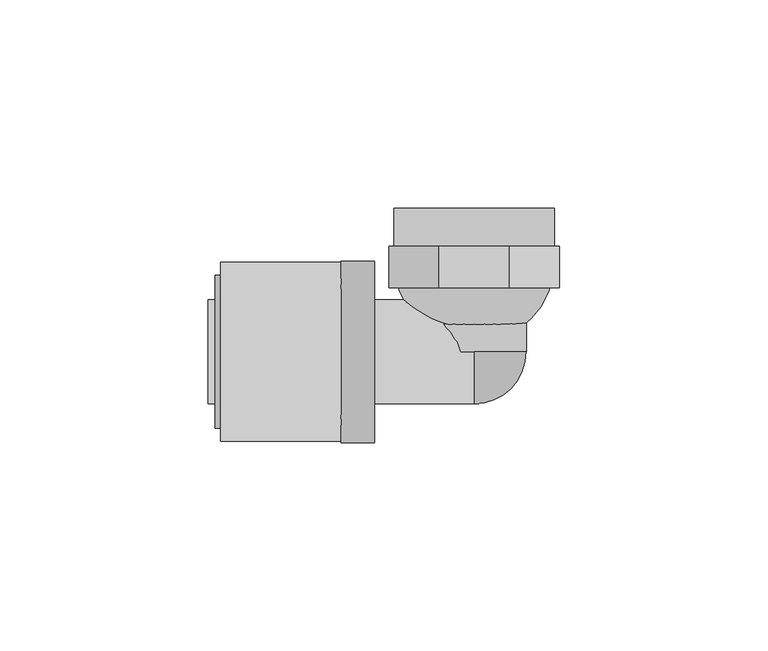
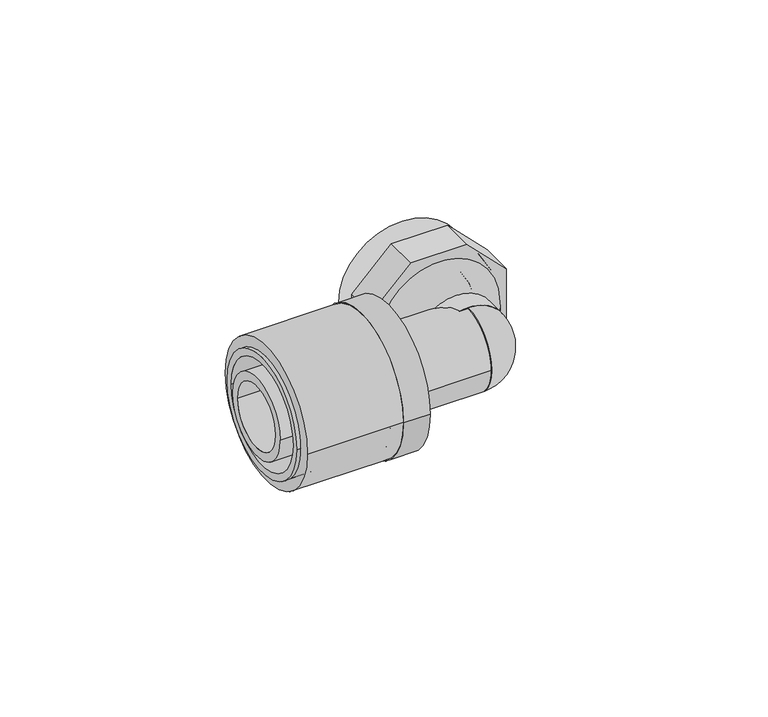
"""IFC4 building model written with IfcOpenShell, lengths in millimetres: pipe fitting geometry, FASTLOC_Elbow with female thread EX+ : FSL A internal AT."""

from ifc_helpers import new_model, si_unit, point, frame, origin, origin_2d, place, context, project, spatial, polyline, circle_curve, ellipse_curve, trimmed, segment, composite_curve, outline, extrude, source, transform, mapped, element, save
from ifc_brep_helpers import plane_surface, cylinder_surface, revolved_surface, advanced_brep


def pipe_fitting_715ab4bf(model_context):
    return source(origin(), model_context, "Body", "SolidModel", [
        extrude(outline(composite_curve([segment(trimmed(circle_curve(origin_2d(), 21.5), [point((21.5, 0.0))], [point((-21.5, 0.0))], False, "CARTESIAN"), True, "CONTINUOUS"), segment(trimmed(circle_curve(origin_2d(), 21.5), [point((-21.5, 0.0))], [point((21.5, 0.0))], False, "CARTESIAN"), True, "CONTINUOUS")], self_intersect=False), holes=[composite_curve([segment(trimmed(circle_curve(origin_2d(), 16.85), [point((16.85, 0.0))], [point((-16.85, 0.0))], True, "CARTESIAN"), True, "CONTINUOUS"), segment(trimmed(circle_curve(origin_2d(), 16.85), [point((-16.85, 0.0))], [point((16.85, 0.0))], True, "CARTESIAN"), True, "CONTINUOUS")], self_intersect=False)]), frame((-61.0, 0.0, 0.0), z_axis=(1.0, 0.0, 0.0), x_axis=(0.0, 1.0, 0.0)), (0.0, 0.0, 1.0), 29.0),
        advanced_brep(
        [(-32.0, -21.8, 0.0), (-32.0, 21.8, 0.0), (-24.0, 21.8, 0.0), (-24.0, -21.8, 0.0), (-62.3, -18.35, 0.0), (-62.3, 18.35, 0.0), (-32.0, 18.35, 0.0), (-32.0, -18.35, 0.0), (-24.0, -16.2, 0.0), (-24.0, 16.2, 0.0), (-62.3, 16.2, 0.0), (-62.3, -16.2, 0.0)],
        [
            (0, 1, circle_curve(frame((-32.0, 0.0, 0.0), z_axis=(1.0, 0.0, 0.0), x_axis=(0.0, 1.0, 0.0)), 21.8)),
            (1, 2),
            (2, 3, circle_curve(frame((-24.0, 0.0, 0.0), z_axis=(-1.0, 0.0, 0.0), x_axis=(0.0, 1.0, 0.0)), 21.8)),
            (3, 0),
            (4, 5, circle_curve(frame((-62.3, 0.0, 0.0), z_axis=(1.0, 0.0, 0.0), x_axis=(0.0, 1.0, 0.0)), 18.35)),
            (5, 6),
            (6, 7, circle_curve(frame((-32.0, 0.0, 0.0), z_axis=(-1.0, 0.0, 0.0), x_axis=(0.0, 1.0, 0.0)), 18.35)),
            (7, 4),
            (8, 9, circle_curve(frame((-24.0, 0.0, 0.0), z_axis=(1.0, 0.0, 0.0), x_axis=(0.0, 1.0, 0.0)), 16.2)),
            (9, 10),
            (10, 11, circle_curve(frame((-62.3, 0.0, 0.0), z_axis=(-1.0, 0.0, 0.0), x_axis=(0.0, 1.0, 0.0)), 16.2)),
            (11, 8),
            (1, 0, circle_curve(frame((-32.0, 0.0, 0.0), z_axis=(1.0, 0.0, 0.0), x_axis=(0.0, -1.0, 0.0)), 21.8)),
            (3, 2, circle_curve(frame((-24.0, 0.0, 0.0), z_axis=(-1.0, 0.0, 0.0), x_axis=(0.0, -1.0, 0.0)), 21.8)),
            (6, 7, circle_curve(frame((-32.0, 0.0, 0.0), z_axis=(1.0, 0.0, 0.0), x_axis=(0.0, -1.0, 0.0)), 18.35)),
            (5, 4, circle_curve(frame((-62.3, 0.0, 0.0), z_axis=(1.0, 0.0, 0.0), x_axis=(0.0, -1.0, 0.0)), 18.35)),
            (10, 11, circle_curve(frame((-62.3, 0.0, 0.0), z_axis=(1.0, 0.0, 0.0), x_axis=(0.0, -1.0, 0.0)), 16.2)),
            (9, 8, circle_curve(frame((-24.0, 0.0, 0.0), z_axis=(1.0, 0.0, 0.0), x_axis=(0.0, -1.0, 0.0)), 16.2)),
        ],
        [
            cylinder_surface(frame((-24.0, 0.0, 0.0), z_axis=(-1.0, 0.0, 0.0), x_axis=(0.0, 1.0, 0.0)), 21.8),
            cylinder_surface(frame((-24.0, 0.0, 0.0), z_axis=(-1.0, 0.0, 0.0), x_axis=(0.0, 1.0, 0.0)), 18.35),
            revolved_surface(polyline([(-62.3, 16.2, 0.0), (-24.0, 16.2, 0.0)]), (-24.0, 0.0, 0.0), (-1.0, 0.0, 0.0)),
            cylinder_surface(frame((-24.0, 0.0, 0.0), z_axis=(-1.0, 0.0, 0.0), x_axis=(0.0, -1.0, 0.0)), 21.8),
            plane_surface(frame((-32.0, 0.0, 0.0), z_axis=(-1.0, 0.0, 0.0), x_axis=(0.0, -1.0, 0.0))),
            cylinder_surface(frame((-24.0, 0.0, 0.0), z_axis=(-1.0, 0.0, 0.0), x_axis=(0.0, -1.0, 0.0)), 18.35),
            plane_surface(frame((-62.3, 0.0, 0.0), z_axis=(-1.0, 0.0, 0.0), x_axis=(0.0, -1.0, 0.0))),
            revolved_surface(polyline([(-62.3, -16.2, 0.0), (-24.0, -16.2, 0.0)]), (-24.0, 0.0, 0.0), (-1.0, 0.0, 0.0)),
            plane_surface(frame((-24.0, 0.0, 0.0), z_axis=(1.0, 0.0, 0.0), x_axis=(0.0, -1.0, 0.0))),
        ],
        [
            (0, [[1, 2, 3, 4]]),
            (1, [[5, 6, 7, 8]]),
            (2, [[9, 10, 11, 12]]),
            (3, [[13, -4, 14, -2]]),
            (4, [[-13, -1], [15, -7]]),
            (5, [[16, -8, -15, -6]]),
            (6, [[-16, -5], [17, -11]]),
            (7, [[18, -12, -17, -10]]),
            (8, [[-14, -3], [-18, -9]]),
        ],
    ),
        advanced_brep(
        [(0.0, 0.0, 12.5), (0.0, 0.0, 6.25), (0.0, -6.25, 0.0), (0.0, -12.5, 0.0), (0.0, 0.0, -12.5), (0.0, 0.0, -6.25)],
        [
            (0, 1),
            (1, 2, circle_curve(frame((0.0, 0.0, 0.0), z_axis=(1.0, 0.0, 0.0), x_axis=(0.0, 0.0, 1.0)), 6.25)),
            (2, 3),
            (3, 0, circle_curve(frame((0.0, 0.0, 0.0), z_axis=(-1.0, 0.0, 0.0), x_axis=(0.0, 0.0, 1.0)), 12.5)),
            (4, 3, circle_curve(frame((0.0, 0.0, 0.0), z_axis=(-1.0, 0.0, 0.0), x_axis=(0.0, 0.0, -1.0)), 12.5)),
            (2, 5, circle_curve(frame((0.0, 0.0, 0.0), z_axis=(1.0, 0.0, 0.0), x_axis=(0.0, 0.0, -1.0)), 6.25)),
            (5, 4),
            (5, 1, circle_curve(frame((0.0, 0.0, 0.0), z_axis=(0.0, -1.0, 0.0), x_axis=(0.0, 0.0, 1.0)), 6.25)),
            (0, 4, circle_curve(frame((0.0, 0.0, 0.0), z_axis=(0.0, 1.0, 0.0), x_axis=(0.0, 0.0, 1.0)), 12.5)),
        ],
        [
            plane_surface(frame((0.0, 0.0, 0.0), z_axis=(-1.0, 0.0, 0.0), x_axis=(0.0, 0.0, 1.0))),
            plane_surface(frame((0.0, 0.0, 0.0), z_axis=(-1.0, 0.0, 0.0), x_axis=(0.0, 0.0, -1.0))),
            plane_surface(frame((0.0, 0.0, 0.0), z_axis=(0.0, 1.0, 0.0), x_axis=(0.0, 0.0, 1.0))),
            revolved_surface(trimmed(ellipse_curve(frame((0.0, 0.0, 0.0), z_axis=(1.0, 0.0, 0.0), x_axis=(0.0, 0.0, 1.0)), 6.25, 6.25), [point((0.0, 0.0, 6.25))], [point((0.0, -6.25, 0.0))], True, "CARTESIAN"), (0.0, 0.0, 0.0), (0.0, 1.0, 0.0)),
            revolved_surface(trimmed(ellipse_curve(frame((0.0, 0.0, 0.0), z_axis=(-1.0, 0.0, 0.0), x_axis=(0.0, 0.0, 1.0)), 12.5, 12.5), [point((0.0, -12.5, 0.0))], [point((0.0, 0.0, 12.5))], True, "CARTESIAN"), (0.0, 0.0, 0.0), (0.0, 1.0, 0.0)),
        ],
        [
            (0, [[1, 2, 3, 4]]),
            (1, [[5, -3, 6, 7]]),
            (2, [[8, -1, 9, -7]]),
            (3, [[-2, -8, -6]]),
            (4, [[-9, -4, -5]]),
        ],
    ),
        extrude(outline(polyline([(-20.5, 8.491378), (-8.491378, 20.5), (8.491378, 20.5), (20.5, 8.491378), (20.5, -8.491378), (8.491378, -20.5), (-8.491378, -20.5), (-20.5, -8.491378), (-20.5, 8.491378)])), frame((0.0, 15.4, 0.0), z_axis=(0.0, 1.0, 0.0), x_axis=(0.0, 0.0, 1.0)), (0.0, 0.0, 1.0), 10.0),
        advanced_brep(
        [(0.5, 2.2564946, 0.0), (-0.5, 2.2564946, 0.0), (-19.25, 21.5, 0.0), (19.25, 21.5, 0.0), (0.5, 9.010004, 0.0), (-0.5, 9.010004, 0.0), (12.5, 21.5, 0.0), (-12.5, 21.5, 0.0), (12.5, 34.5, 0.0), (-12.5, 34.5, 0.0), (-19.25, 34.5, 0.0), (19.25, 34.5, 0.0)],
        [
            (0, 1, circle_curve(frame((0.0, 2.2564946, 0.0), z_axis=(0.0, 1.0, 0.0), x_axis=(-1.0, 0.0, 0.0)), 0.5)),
            (1, 2, circle_curve(frame((0.0, 21.5, 0.0), z_axis=(0.0, 0.0, -1.0), x_axis=(0.0, 1.0, 0.0)), 19.25)),
            (2, 3, circle_curve(frame((0.0, 21.5, 0.0), z_axis=(0.0, -1.0, 0.0), x_axis=(-1.0, 0.0, 0.0)), 19.25)),
            (3, 0, circle_curve(frame((0.0, 21.5, 0.0), z_axis=(0.0, 0.0, -1.0), x_axis=(0.0, 1.0, 0.0)), 19.25)),
            (4, 5, circle_curve(frame((0.0, 9.010004, 0.0), z_axis=(0.0, 1.0, 0.0), x_axis=(-1.0, 0.0, 0.0)), 0.5)),
            (5, 1),
            (0, 4),
            (6, 7, circle_curve(frame((0.0, 21.5, 0.0), z_axis=(0.0, 1.0, 0.0), x_axis=(-1.0, 0.0, 0.0)), 12.5)),
            (7, 5, circle_curve(frame((0.0, 21.5, 0.0), z_axis=(0.0, 0.0, 1.0), x_axis=(0.0, 1.0, 0.0)), 12.5)),
            (4, 6, circle_curve(frame((0.0, 21.5, 0.0), z_axis=(0.0, 0.0, 1.0), x_axis=(0.0, 1.0, 0.0)), 12.5)),
            (8, 9, circle_curve(frame((0.0, 34.5, 0.0), z_axis=(0.0, 1.0, 0.0), x_axis=(-1.0, 0.0, 0.0)), 12.5)),
            (9, 7),
            (6, 8),
            (2, 10),
            (10, 11, circle_curve(frame((0.0, 34.5, 0.0), z_axis=(0.0, -1.0, 0.0), x_axis=(-1.0, 0.0, 0.0)), 19.25)),
            (11, 3),
            (1, 0, circle_curve(frame((0.0, 2.2564946, 0.0), z_axis=(0.0, 1.0, 0.0), x_axis=(1.0, 0.0, 0.0)), 0.5)),
            (3, 2, circle_curve(frame((0.0, 21.5, 0.0), z_axis=(0.0, -1.0, 0.0), x_axis=(1.0, 0.0, 0.0)), 19.25)),
            (5, 4, circle_curve(frame((0.0, 9.010004, 0.0), z_axis=(0.0, 1.0, 0.0), x_axis=(1.0, 0.0, 0.0)), 0.5)),
            (7, 6, circle_curve(frame((0.0, 21.5, 0.0), z_axis=(0.0, 1.0, 0.0), x_axis=(1.0, 0.0, 0.0)), 12.5)),
            (9, 8, circle_curve(frame((0.0, 34.5, 0.0), z_axis=(0.0, 1.0, 0.0), x_axis=(1.0, 0.0, 0.0)), 12.5)),
            (10, 11, circle_curve(frame((0.0, 34.5, 0.0), z_axis=(0.0, 1.0, 0.0), x_axis=(1.0, 0.0, 0.0)), 19.25)),
        ],
        [
            revolved_surface(trimmed(ellipse_curve(frame((0.0, 21.5, 0.0), z_axis=(0.0, 0.0, 1.0), x_axis=(0.0, 1.0, 0.0)), 19.25, 19.25), [point((-19.25, 21.5, 0.0))], [point((-0.5, 2.2564946, 0.0))], True, "CARTESIAN"), (0.0, 15.4, 0.0), (0.0, -1.0, 0.0)),
            revolved_surface(polyline([(-0.5, 2.2564946, 0.0), (-0.5, 9.010004, 0.0)]), (0.0, 15.4, 0.0), (0.0, -1.0, 0.0)),
            revolved_surface(trimmed(ellipse_curve(frame((0.0, 21.5, 0.0), z_axis=(0.0, 0.0, -1.0), x_axis=(0.0, 1.0, 0.0)), 12.5, 12.5), [point((-0.5, 9.010004, 0.0))], [point((-12.5, 21.5, 0.0))], True, "CARTESIAN"), (0.0, 15.4, 0.0), (0.0, -1.0, 0.0)),
            revolved_surface(polyline([(-12.5, 21.5, 0.0), (-12.5, 34.5, 0.0)]), (0.0, 15.4, 0.0), (0.0, -1.0, 0.0)),
            cylinder_surface(frame((0.0, 15.4, 0.0), z_axis=(0.0, -1.0, 0.0), x_axis=(-1.0, 0.0, 0.0)), 19.25),
            revolved_surface(trimmed(ellipse_curve(frame((0.0, 21.5, 0.0), z_axis=(0.0, 0.0, -1.0), x_axis=(0.0, 1.0, 0.0)), 19.25, 19.25), [point((19.25, 21.5, 0.0))], [point((0.5, 2.2564946, 0.0))], True, "CARTESIAN"), (0.0, 15.4, 0.0), (0.0, -1.0, 0.0)),
            revolved_surface(polyline([(0.5, 2.2564946, 0.0), (0.5, 9.010004, 0.0)]), (0.0, 15.4, 0.0), (0.0, -1.0, 0.0)),
            revolved_surface(trimmed(ellipse_curve(frame((0.0, 21.5, 0.0), z_axis=(0.0, 0.0, 1.0), x_axis=(0.0, 1.0, 0.0)), 12.5, 12.5), [point((0.5, 9.010004, 0.0))], [point((12.5, 21.5, 0.0))], True, "CARTESIAN"), (0.0, 15.4, 0.0), (0.0, -1.0, 0.0)),
            revolved_surface(polyline([(12.5, 21.5, 0.0), (12.5, 34.5, 0.0)]), (0.0, 15.4, 0.0), (0.0, -1.0, 0.0)),
            plane_surface(frame((0.0, 34.5, 0.0), z_axis=(0.0, 1.0, 0.0), x_axis=(1.0, 0.0, 0.0))),
            cylinder_surface(frame((0.0, 15.4, 0.0), z_axis=(0.0, -1.0, 0.0), x_axis=(1.0, 0.0, 0.0)), 19.25),
        ],
        [
            (0, [[1, 2, 3, 4]]),
            (1, [[5, 6, -1, 7]]),
            (2, [[8, 9, -5, 10]]),
            (3, [[11, 12, -8, 13]]),
            (4, [[-3, 14, 15, 16]]),
            (5, [[17, -4, 18, -2]]),
            (6, [[19, -7, -17, -6]]),
            (7, [[20, -10, -19, -9]]),
            (8, [[21, -13, -20, -12]]),
            (9, [[22, -15], [-21, -11]]),
            (10, [[-18, -16, -22, -14]]),
        ],
    ),
        extrude(outline(composite_curve([segment(trimmed(circle_curve(origin_2d(), 12.5), [point((0.0, -12.5))], [point((0.0, 12.5))], False, "CARTESIAN"), True, "CONTINUOUS"), segment(trimmed(circle_curve(origin_2d(), 12.5), [point((0.0, 12.5))], [point((0.0, -12.5))], False, "CARTESIAN"), True, "CONTINUOUS")], self_intersect=False), holes=[composite_curve([segment(trimmed(circle_curve(origin_2d(), 9.85), [point((0.0, -9.85))], [point((0.0, 9.85))], True, "CARTESIAN"), True, "CONTINUOUS"), segment(trimmed(circle_curve(origin_2d(), 9.85), [point((0.0, 9.85))], [point((0.0, -9.85))], True, "CARTESIAN"), True, "CONTINUOUS")], self_intersect=False)]), frame((0.0, 0.0, 0.0), z_axis=(0.0, 1.0, 0.0), x_axis=(0.0, 0.0, 1.0)), (0.0, 0.0, 1.0), 15.4),
        advanced_brep(
        [(-32.0, 12.5, 0.0), (-32.0, -12.5, 0.0), (-64.0, -12.5, 0.0), (-64.0, 12.5, 0.0), (-29.0, 14.1, 0.0), (-29.0, -14.1, 0.0), (-32.0, -14.1, 0.0), (-32.0, 14.1, 0.0), (0.0, 12.5, 0.0), (0.0, -12.5, 0.0), (-29.0, -12.5, 0.0), (-29.0, 12.5, 0.0), (-64.0, 9.85, 0.0), (-64.0, -9.85, 0.0), (0.0, -9.85, 0.0), (0.0, 9.85, 0.0)],
        [
            (0, 1, circle_curve(frame((-32.0, 0.0, 0.0), z_axis=(-1.0, 0.0, 0.0), x_axis=(0.0, -1.0, 0.0)), 12.5)),
            (1, 2),
            (2, 3, circle_curve(frame((-64.0, 0.0, 0.0), z_axis=(1.0, 0.0, 0.0), x_axis=(0.0, -1.0, 0.0)), 12.5)),
            (3, 0),
            (4, 5, circle_curve(frame((-29.0, 0.0, 0.0), z_axis=(-1.0, 0.0, 0.0), x_axis=(0.0, -1.0, 0.0)), 14.1)),
            (5, 6),
            (6, 7, circle_curve(frame((-32.0, 0.0, 0.0), z_axis=(1.0, 0.0, 0.0), x_axis=(0.0, -1.0, 0.0)), 14.1)),
            (7, 4),
            (8, 9, circle_curve(frame((0.0, 0.0, 0.0), z_axis=(-1.0, 0.0, 0.0), x_axis=(0.0, -1.0, 0.0)), 12.5)),
            (9, 10),
            (10, 11, circle_curve(frame((-29.0, 0.0, 0.0), z_axis=(1.0, 0.0, 0.0), x_axis=(0.0, -1.0, 0.0)), 12.5)),
            (11, 8),
            (12, 13, circle_curve(frame((-64.0, 0.0, 0.0), z_axis=(-1.0, 0.0, 0.0), x_axis=(0.0, -1.0, 0.0)), 9.85)),
            (13, 14),
            (14, 15, circle_curve(frame((0.0, 0.0, 0.0), z_axis=(1.0, 0.0, 0.0), x_axis=(0.0, -1.0, 0.0)), 9.85)),
            (15, 12),
            (2, 3, circle_curve(frame((-64.0, 0.0, 0.0), z_axis=(-1.0, 0.0, 0.0), x_axis=(0.0, 1.0, 0.0)), 12.5)),
            (12, 13, circle_curve(frame((-64.0, 0.0, 0.0), z_axis=(1.0, 0.0, 0.0), x_axis=(0.0, 1.0, 0.0)), 9.85)),
            (1, 0, circle_curve(frame((-32.0, 0.0, 0.0), z_axis=(-1.0, 0.0, 0.0), x_axis=(0.0, 1.0, 0.0)), 12.5)),
            (6, 7, circle_curve(frame((-32.0, 0.0, 0.0), z_axis=(-1.0, 0.0, 0.0), x_axis=(0.0, 1.0, 0.0)), 14.1)),
            (5, 4, circle_curve(frame((-29.0, 0.0, 0.0), z_axis=(-1.0, 0.0, 0.0), x_axis=(0.0, 1.0, 0.0)), 14.1)),
            (10, 11, circle_curve(frame((-29.0, 0.0, 0.0), z_axis=(-1.0, 0.0, 0.0), x_axis=(0.0, 1.0, 0.0)), 12.5)),
            (9, 8, circle_curve(frame((0.0, 0.0, 0.0), z_axis=(-1.0, 0.0, 0.0), x_axis=(0.0, 1.0, 0.0)), 12.5)),
            (14, 15, circle_curve(frame((0.0, 0.0, 0.0), z_axis=(-1.0, 0.0, 0.0), x_axis=(0.0, 1.0, 0.0)), 9.85)),
        ],
        [
            cylinder_surface(frame((0.0, 0.0, 0.0), z_axis=(1.0, 0.0, 0.0), x_axis=(0.0, -1.0, 0.0)), 12.5),
            cylinder_surface(frame((0.0, 0.0, 0.0), z_axis=(1.0, 0.0, 0.0), x_axis=(0.0, -1.0, 0.0)), 14.1),
            revolved_surface(polyline([(0.0, -9.85, 0.0), (-64.0, -9.85, 0.0)]), (0.0, 0.0, 0.0), (1.0, 0.0, 0.0)),
            plane_surface(frame((-64.0, 0.0, 0.0), z_axis=(-1.0, 0.0, 0.0), x_axis=(0.0, 1.0, 0.0))),
            cylinder_surface(frame((0.0, 0.0, 0.0), z_axis=(1.0, 0.0, 0.0), x_axis=(0.0, 1.0, 0.0)), 12.5),
            plane_surface(frame((-32.0, 0.0, 0.0), z_axis=(-1.0, 0.0, 0.0), x_axis=(0.0, 1.0, 0.0))),
            cylinder_surface(frame((0.0, 0.0, 0.0), z_axis=(1.0, 0.0, 0.0), x_axis=(0.0, 1.0, 0.0)), 14.1),
            plane_surface(frame((-29.0, 0.0, 0.0), z_axis=(1.0, 0.0, 0.0), x_axis=(0.0, 1.0, 0.0))),
            plane_surface(frame((0.0, 0.0, 0.0), z_axis=(1.0, 0.0, 0.0), x_axis=(0.0, 1.0, 0.0))),
            revolved_surface(polyline([(0.0, 9.85, 0.0), (-64.0, 9.85, 0.0)]), (0.0, 0.0, 0.0), (1.0, 0.0, 0.0)),
        ],
        [
            (0, [[1, 2, 3, 4]]),
            (1, [[5, 6, 7, 8]]),
            (0, [[9, 10, 11, 12]]),
            (2, [[13, 14, 15, 16]]),
            (3, [[17, -3], [18, -13]]),
            (4, [[19, -4, -17, -2]]),
            (5, [[20, -7], [-19, -1]]),
            (6, [[21, -8, -20, -6]]),
            (7, [[-21, -5], [22, -11]]),
            (4, [[23, -12, -22, -10]]),
            (8, [[-23, -9], [24, -15]]),
            (9, [[-18, -16, -24, -14]]),
        ],
    ),
    ])


if __name__ == "__main__":
    model = new_model("IFC4")
    model_context = context("Model", 3, world=origin())
    ifc_project = project(units=[si_unit("LENGTHUNIT", "METRE", prefix="MILLI")], contexts=[model_context])
    site = spatial("IfcSite", under=ifc_project)
    building = spatial("IfcBuilding", under=site)
    placement = place(None, origin())
    pipe_fitting_shape = pipe_fitting_715ab4bf(model_context)
    element("IfcPipeFitting", 1, ObjectType="FASTLOC_Elbow with female thread EX+ : FSL A internal AT", at=placement, inside=building, context=model_context, shape_type="MappedRepresentation", body=[
        mapped(pipe_fitting_shape, transform((0.0, 0.0, 0.0), x_axis=(1.0, 0.0, 0.0), y_axis=(0.0, 1.0, 0.0), z_axis=(0.0, 0.0, 1.0))),
    ])
    save(model, "model.ifc")
